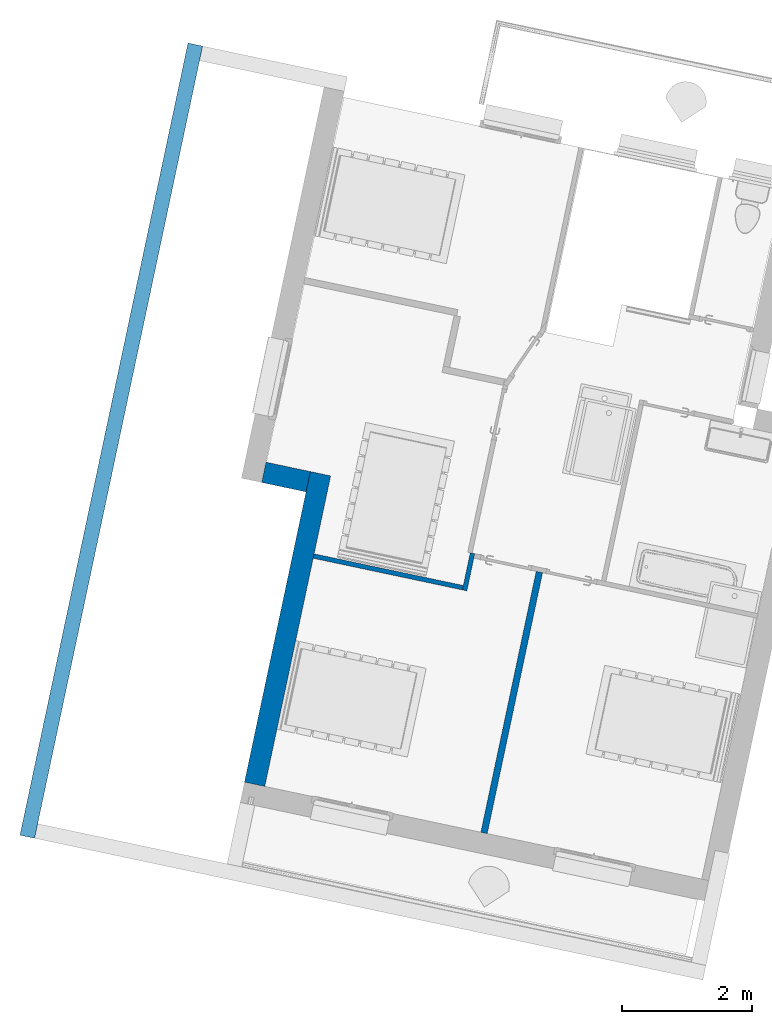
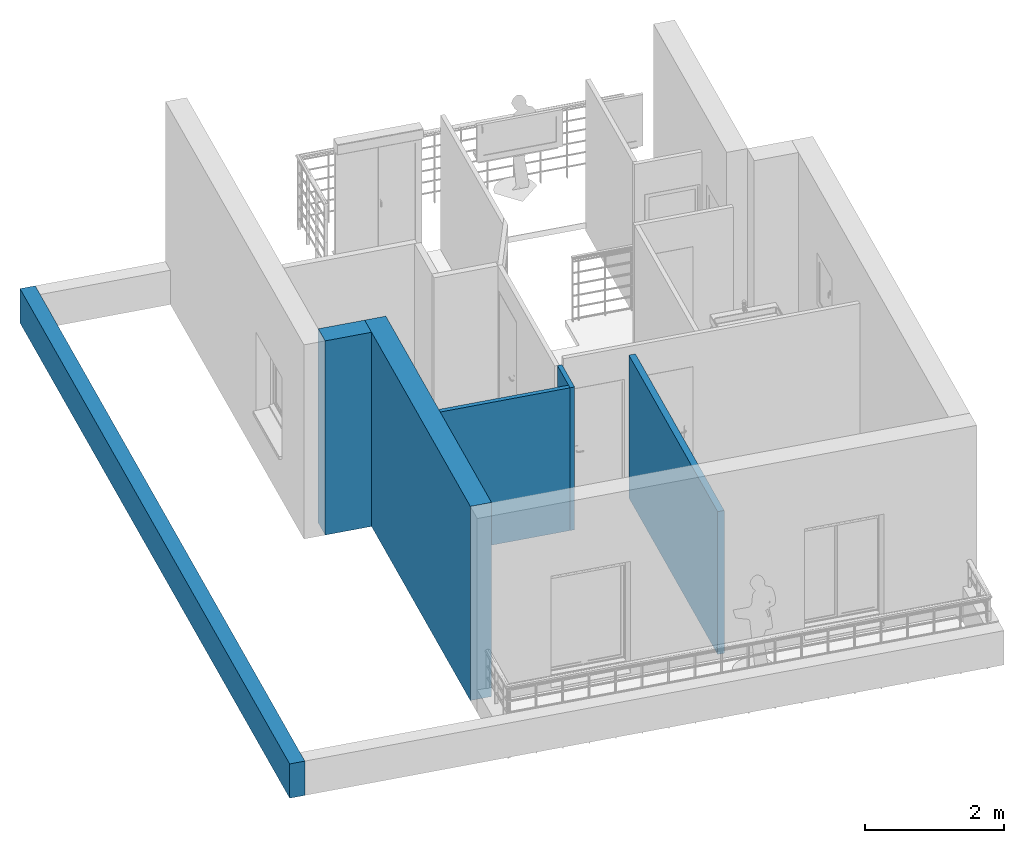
# One storey, part 3 of 18: 6 walls.
"""IFC2X3 building model written with IfcOpenShell, lengths in metres."""

from ifc_helpers import new_model, entity, si_unit, converted_unit, derived_unit, direction, frame, frame_2d, origin, place, context, subcontext, project, spatial, polyline, rectangle, outline, extrude, material, layer, layer_set, layer_usage, type_object, element, save


model = new_model("IFC2X3")

# Units and contexts
model_context = context("Model", 3, precision=1e-05, world=origin(), true_north=direction((6.12303176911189e-17, 1.0)))
body_context = subcontext(model_context, "Body", "Model", "MODEL_VIEW")
ifc_project = project(units=[si_unit("LENGTHUNIT", "METRE"), si_unit("AREAUNIT", "SQUARE_METRE"), si_unit("VOLUMEUNIT", "CUBIC_METRE"), converted_unit("PLANEANGLEUNIT", "DEGREE", entity("IfcRatioMeasure", 0.0174532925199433), si_unit("PLANEANGLEUNIT", "RADIAN"), dimensions=[0, 0, 0, 0, 0, 0, 0]), si_unit("MASSUNIT", "GRAM", prefix="KILO"), derived_unit("MASSDENSITYUNIT", [(si_unit("MASSUNIT", "GRAM", prefix="KILO"), 1), (si_unit("LENGTHUNIT", "METRE"), -3)]), si_unit("TIMEUNIT", "SECOND"), si_unit("FREQUENCYUNIT", "HERTZ"), si_unit("THERMODYNAMICTEMPERATUREUNIT", "DEGREE_CELSIUS"), derived_unit("THERMALTRANSMITTANCEUNIT", [(si_unit("MASSUNIT", "GRAM", prefix="KILO"), 1), (si_unit("THERMODYNAMICTEMPERATUREUNIT", "KELVIN"), -1), (si_unit("TIMEUNIT", "SECOND"), -3)]), derived_unit("VOLUMETRICFLOWRATEUNIT", [(si_unit("LENGTHUNIT", "METRE"), 3), (si_unit("TIMEUNIT", "SECOND"), -1)]), si_unit("ELECTRICCURRENTUNIT", "AMPERE"), si_unit("ELECTRICVOLTAGEUNIT", "VOLT"), si_unit("POWERUNIT", "WATT"), si_unit("FORCEUNIT", "NEWTON", prefix="KILO"), si_unit("ILLUMINANCEUNIT", "LUX"), si_unit("LUMINOUSFLUXUNIT", "LUMEN"), si_unit("LUMINOUSINTENSITYUNIT", "CANDELA"), derived_unit("USERDEFINED", [(si_unit("MASSUNIT", "GRAM", prefix="KILO"), -1), (si_unit("LENGTHUNIT", "METRE"), -2), (si_unit("TIMEUNIT", "SECOND"), 3), (si_unit("LUMINOUSFLUXUNIT", "LUMEN"), 1)]), derived_unit("LINEARVELOCITYUNIT", [(si_unit("LENGTHUNIT", "METRE"), 1), (si_unit("TIMEUNIT", "SECOND"), -1)]), si_unit("PRESSUREUNIT", "PASCAL"), derived_unit("USERDEFINED", [(si_unit("LENGTHUNIT", "METRE"), -2), (si_unit("MASSUNIT", "GRAM", prefix="KILO"), 1), (si_unit("TIMEUNIT", "SECOND"), -2)])], contexts=[model_context])

# Site, building, storey
site_placement = place(None, origin())
site = spatial("IfcSite", under=ifc_project, at=site_placement, Name="Default", CompositionType="ELEMENT")
building_placement = place(site_placement, origin())
building = spatial("IfcBuilding", under=site, at=building_placement, CompositionType="ELEMENT")
storey_placement = place(building_placement, frame((0.0, 0.0, 2.8)))
storey = spatial("IfcBuildingStorey", under=building, at=storey_placement, Name="ETAGE", CompositionType="ELEMENT", Elevation=2.8)

# Walls
ifc_material_1 = material(Name="Enduit blanc cassé2")
ifc_layer_1 = layer(ifc_material_1, 0.02)
ifc_material_2 = material(Name="Parpaing")
ifc_layer_2 = layer(ifc_material_2, 0.2)
ifc_material_3 = material(Name="Isolant")
ifc_layer_3 = layer(ifc_material_3, 0.1)
ifc_layer_set_1 = layer_set([ifc_layer_1, ifc_layer_2, ifc_layer_3], Name="Mur de base:Ext. Parpaing 20 + Isolant 10 enduit blanc cassé")
ifc_layer_usage_1 = layer_usage(ifc_layer_set_1, "AXIS2", "NEGATIVE", 0.16)
wall_type_1 = type_object("IfcWallType", Name="Mur de base:Ext. Parpaing 20 + Isolant 10 enduit blanc cassé", PredefinedType="STANDARD", material=ifc_layer_set_1)
wall_1_placement = place(storey_placement, frame((-18.7927201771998, 75.8415443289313, 0.0), z_axis=(0.0, 0.0, 1.0), x_axis=(0.207484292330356, 0.978238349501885, 0.0)))
element("IfcWallStandardCase", 1, at=wall_1_placement, inside=storey, type_object=wall_type_1, material=ifc_layer_usage_1, Name="Mur de base:Ext. Parpaing 20 + Isolant 10 enduit blanc cassé", ObjectType="Mur de base:Ext. Parpaing 20 + Isolant 10 enduit blanc cassé", context=body_context, shape_type="SweptSolid", body=[
    extrude(rectangle(XDim=4.90000000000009, YDim=0.320000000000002, at=frame_2d((2.45000000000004, -4.57966997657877e-16), x_axis=(-1.0, 0.0))), origin(), (0.0, 0.0, 1.0), 3.40000000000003),
])
ifc_layer_usage_2 = layer_usage(ifc_layer_set_1, "AXIS2", "NEGATIVE", 0.16)
wall_2_placement = place(storey_placement, frame((-17.9657627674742, 80.5115915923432, 0.0), z_axis=(0.0, 0.0, 1.0), x_axis=(-0.978238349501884, 0.207484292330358, 0.0)))
element("IfcWallStandardCase", 2, at=wall_2_placement, inside=storey, type_object=wall_type_1, material=ifc_layer_usage_2, Name="Mur de base:Ext. Parpaing 20 + Isolant 10 enduit blanc cassé", ObjectType="Mur de base:Ext. Parpaing 20 + Isolant 10 enduit blanc cassé", context=body_context, shape_type="SweptSolid", body=[
    extrude(outline(polyline([(0.700144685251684, -0.159999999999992), (0.699837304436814, 0.159999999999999), (0.0, 0.159999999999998), (0.0, -0.159999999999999), (0.700144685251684, -0.159999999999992)])), origin(), (0.0, 0.0, 1.0), 3.4),
])
ifc_layer_4 = layer(ifc_material_1, 0.015)
ifc_layer_5 = layer(ifc_material_2, 0.2)
ifc_layer_6 = layer(ifc_material_1, 0.015)
ifc_layer_set_2 = layer_set([ifc_layer_4, ifc_layer_5, ifc_layer_6], Name="Mur de base:Ext. Parpaing 20 + 2 x 1.5")
ifc_layer_usage_3 = layer_usage(ifc_layer_set_2, "AXIS2", "NEGATIVE", 0.115)
wall_type_2 = type_object("IfcWallType", Name="Mur de base:Ext. Parpaing 20 + 2 x 1.5", PredefinedType="STANDARD", material=ifc_layer_set_2)
wall_3_placement = place(storey_placement, frame((-22.3020445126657, 75.0320582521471, 0.0), z_axis=(0.0, 0.0, 1.0), x_axis=(0.207484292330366, 0.978238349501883, 0.0)))
element("IfcWallStandardCase", 3, at=wall_3_placement, inside=storey, type_object=wall_type_2, material=ifc_layer_usage_3, Name="Mur de base:Ext. Parpaing 20 + 2 x 1.5", ObjectType="Mur de base:Ext. Parpaing 20 + 2 x 1.5", context=body_context, shape_type="SweptSolid", body=[
    extrude(rectangle(XDim=12.5, YDim=0.229999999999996, at=frame_2d((6.25000000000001, 1.40859546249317e-15), x_axis=(-1.0, 0.0))), origin(), (0.0, 0.0, 1.0), 0.6),
])
ifc_material_4 = material(Name="Blanc - Element de salle de bains")
ifc_layer_7 = layer(ifc_material_4, 0.1)
ifc_layer_set_3 = layer_set([ifc_layer_7], Name="Mur de base:Int.  Platre 100  mm en blanc 2")
ifc_layer_usage_4 = layer_usage(ifc_layer_set_3, "AXIS2", "NEGATIVE", 0.05)
wall_type_3 = type_object("IfcWallType", Name="Mur de base:Int.  Platre 100  mm en blanc 2", PredefinedType="STANDARD", material=ifc_layer_set_3)
wall_4_placement = place(storey_placement, frame((-15.251289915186, 75.0904071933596, 0.0), z_axis=(0.0, 0.0, 1.0), x_axis=(0.207484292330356, 0.978238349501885, 0.0)))
element("IfcWallStandardCase", 4, at=wall_4_placement, inside=storey, type_object=wall_type_3, material=ifc_layer_usage_4, Name="Mur de base:Int.  Platre 100  mm en blanc 2", ObjectType="Mur de base:Int.  Platre 100  mm en blanc 2", context=body_context, shape_type="SweptSolid", body=[
    extrude(rectangle(XDim=4.117097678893, YDim=0.100000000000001, at=frame_2d((2.0585488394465, 5.41233724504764e-16), x_axis=(-1.0, 0.0))), origin(), (0.0, 0.0, 1.0), 2.5),
])
ifc_material_5 = material(Name="Mur par défaut")
ifc_layer_8 = layer(ifc_material_5, 0.07)
ifc_layer_set_4 = layer_set([ifc_layer_8], Name="Mur de base:Int.  Platre 70 mm")
ifc_layer_usage_5 = layer_usage(ifc_layer_set_4, "AXIS2", "NEGATIVE", 0.035)
wall_type_4 = type_object("IfcWallType", Name="Mur de base:Int.  Platre 70 mm", PredefinedType="STANDARD", material=ifc_layer_set_4)
wall_5_placement = place(storey_placement, frame((-15.5510614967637, 78.8340734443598, 0.0), z_axis=(0.0, 0.0, 1.0), x_axis=(0.207484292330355, 0.978238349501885, 0.0)))
element("IfcWallStandardCase", 5, at=wall_5_placement, inside=storey, type_object=wall_type_4, material=ifc_layer_usage_5, Name="Mur de base:Int.  Platre 70 mm", ObjectType="Mur de base:Int.  Platre 70 mm", context=body_context, shape_type="SweptSolid", body=[
    extrude(rectangle(XDim=0.587097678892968, YDim=0.0699999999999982, at=frame_2d((0.293548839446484, -6.93889390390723e-17), x_axis=(-1.0, 0.0))), origin(), (0.0, 0.0, 1.0), 2.5),
])
ifc_layer_usage_6 = layer_usage(ifc_layer_set_4, "AXIS2", "NEGATIVE", 0.035)
wall_6_placement = place(storey_placement, frame((-15.5780378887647, 78.875573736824, 0.0), z_axis=(0.0, 0.0, 1.0), x_axis=(-0.978238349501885, 0.207484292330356, 0.0)))
element("IfcWallStandardCase", 6, at=wall_6_placement, inside=storey, type_object=wall_type_4, material=ifc_layer_usage_6, Name="Mur de base:Int.  Platre 70 mm", ObjectType="Mur de base:Int.  Platre 70 mm", context=body_context, shape_type="SweptSolid", body=[
    extrude(rectangle(XDim=2.35521205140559, YDim=0.0699999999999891, at=frame_2d((1.17760602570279, 5.25621213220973e-15), x_axis=(-1.0, 0.0))), origin(), (0.0, 0.0, 1.0), 2.5),
])

save(model, "model.ifc")
